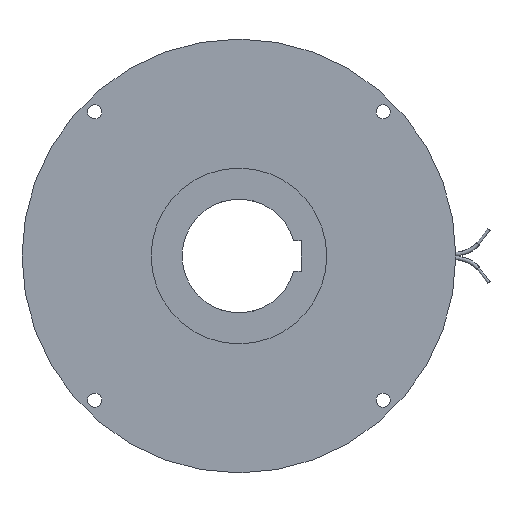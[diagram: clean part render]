
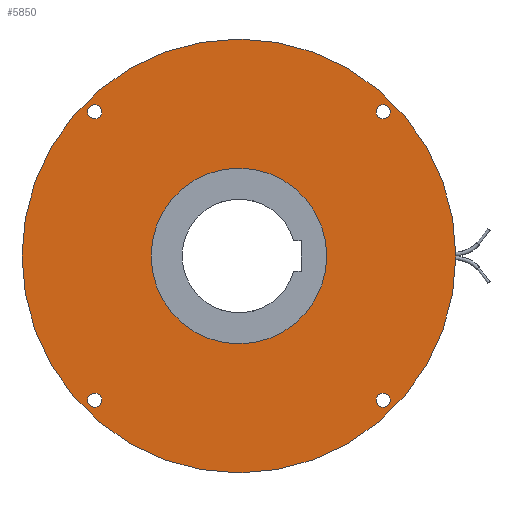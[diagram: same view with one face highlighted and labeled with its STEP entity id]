
A CAD part, left-side view. The second image highlights one B-rep face of the part: STEP entity #5850.
In plain terms, the highlighted planar face has unit normal (-1, 0, 0).
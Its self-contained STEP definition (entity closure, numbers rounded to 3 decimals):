
#128=FACE_BOUND('',#906,.T.);
#129=FACE_BOUND('',#907,.T.);
#130=FACE_BOUND('',#908,.T.);
#131=FACE_BOUND('',#909,.T.);
#132=FACE_BOUND('',#910,.T.);
#209=PLANE('',#6718);
#530=FACE_OUTER_BOUND('',#905,.T.);
#905=EDGE_LOOP('',(#4974,#4975));
#906=EDGE_LOOP('',(#4976));
#907=EDGE_LOOP('',(#4977));
#908=EDGE_LOOP('',(#4978));
#909=EDGE_LOOP('',(#4979));
#910=EDGE_LOOP('',(#4980,#4981));
#1946=CIRCLE('',#6671,34.);
#1947=CIRCLE('',#6672,34.);
#1948=CIRCLE('',#6674,84.);
#1949=CIRCLE('',#6675,84.);
#1978=CIRCLE('',#6710,2.75);
#1979=CIRCLE('',#6712,2.75);
#1980=CIRCLE('',#6714,2.75);
#1981=CIRCLE('',#6716,2.75);
#2528=VERTEX_POINT('',#10630);
#2529=VERTEX_POINT('',#10631);
#2530=VERTEX_POINT('',#10636);
#2531=VERTEX_POINT('',#10637);
#2558=VERTEX_POINT('',#10772);
#2559=VERTEX_POINT('',#10776);
#2560=VERTEX_POINT('',#10780);
#2561=VERTEX_POINT('',#10784);
#3341=EDGE_CURVE('',#2528,#2529,#1946,.T.);
#3343=EDGE_CURVE('',#2529,#2528,#1947,.T.);
#3344=EDGE_CURVE('',#2530,#2531,#1948,.T.);
#3345=EDGE_CURVE('',#2531,#2530,#1949,.T.);
#3388=EDGE_CURVE('',#2558,#2558,#1978,.T.);
#3390=EDGE_CURVE('',#2559,#2559,#1979,.T.);
#3392=EDGE_CURVE('',#2560,#2560,#1980,.T.);
#3394=EDGE_CURVE('',#2561,#2561,#1981,.T.);
#4974=ORIENTED_EDGE('',*,*,#3344,.T.);
#4975=ORIENTED_EDGE('',*,*,#3345,.T.);
#4976=ORIENTED_EDGE('',*,*,#3394,.T.);
#4977=ORIENTED_EDGE('',*,*,#3392,.T.);
#4978=ORIENTED_EDGE('',*,*,#3390,.T.);
#4979=ORIENTED_EDGE('',*,*,#3388,.T.);
#4980=ORIENTED_EDGE('',*,*,#3341,.F.);
#4981=ORIENTED_EDGE('',*,*,#3343,.F.);
#5850=ADVANCED_FACE('',(#530,#128,#129,#130,#131,#132),#209,.T.);
#6671=AXIS2_PLACEMENT_3D('',#10632,#8531,#8532);
#6672=AXIS2_PLACEMENT_3D('',#10634,#8534,#8535);
#6674=AXIS2_PLACEMENT_3D('',#10638,#8538,#8539);
#6675=AXIS2_PLACEMENT_3D('',#10639,#8540,#8541);
#6710=AXIS2_PLACEMENT_3D('',#10774,#8620,#8621);
#6712=AXIS2_PLACEMENT_3D('',#10778,#8625,#8626);
#6714=AXIS2_PLACEMENT_3D('',#10782,#8630,#8631);
#6716=AXIS2_PLACEMENT_3D('',#10786,#8635,#8636);
#6718=AXIS2_PLACEMENT_3D('',#10788,#8639,#8640);
#8531=DIRECTION('center_axis',(-1.,0.,0.));
#8532=DIRECTION('ref_axis',(0.,1.,0.));
#8534=DIRECTION('center_axis',(-1.,0.,0.));
#8535=DIRECTION('ref_axis',(0.,1.,0.));
#8538=DIRECTION('center_axis',(-1.,0.,0.));
#8539=DIRECTION('ref_axis',(0.,1.,0.));
#8540=DIRECTION('center_axis',(-1.,0.,0.));
#8541=DIRECTION('ref_axis',(0.,1.,0.));
#8620=DIRECTION('center_axis',(1.,0.,0.));
#8621=DIRECTION('ref_axis',(0.,0.,
-1.));
#8625=DIRECTION('center_axis',(1.,0.,0.));
#8626=DIRECTION('ref_axis',(0.,0.,
-1.));
#8630=DIRECTION('center_axis',(1.,0.,0.));
#8631=DIRECTION('ref_axis',(0.,0.,
-1.));
#8635=DIRECTION('center_axis',(1.,0.,0.));
#8636=DIRECTION('ref_axis',(0.,0.,
-1.));
#8639=DIRECTION('center_axis',(-1.,0.,0.));
#8640=DIRECTION('ref_axis',(0.,0.,1.));
#10630=CARTESIAN_POINT('',(-41.6,34.,0.));
#10631=CARTESIAN_POINT('',(-41.6,-34.,0.));
#10632=CARTESIAN_POINT('Origin',(-41.6,0.,0.));
#10634=CARTESIAN_POINT('Origin',(-41.6,0.,0.));
#10636=CARTESIAN_POINT('',(-41.6,84.,0.));
#10637=CARTESIAN_POINT('',(-41.6,-84.,0.));
#10638=CARTESIAN_POINT('Origin',(-41.6,0.,0.));
#10639=CARTESIAN_POINT('Origin',(-41.6,0.,0.));
#10772=CARTESIAN_POINT('',(-41.6,55.861,-53.111));
#10774=CARTESIAN_POINT('Origin',(-41.6,55.861,-55.861));
#10776=CARTESIAN_POINT('',(-41.6,-55.861,58.611));
#10778=CARTESIAN_POINT('Origin',(-41.6,-55.861,55.861));
#10780=CARTESIAN_POINT('',(-41.6,55.861,58.611));
#10782=CARTESIAN_POINT('Origin',(-41.6,55.861,55.861));
#10784=CARTESIAN_POINT('',(-41.6,-55.861,-53.111));
#10786=CARTESIAN_POINT('Origin',(-41.6,-55.861,-55.861));
#10788=CARTESIAN_POINT('Origin',(-41.6,59.,0.));
